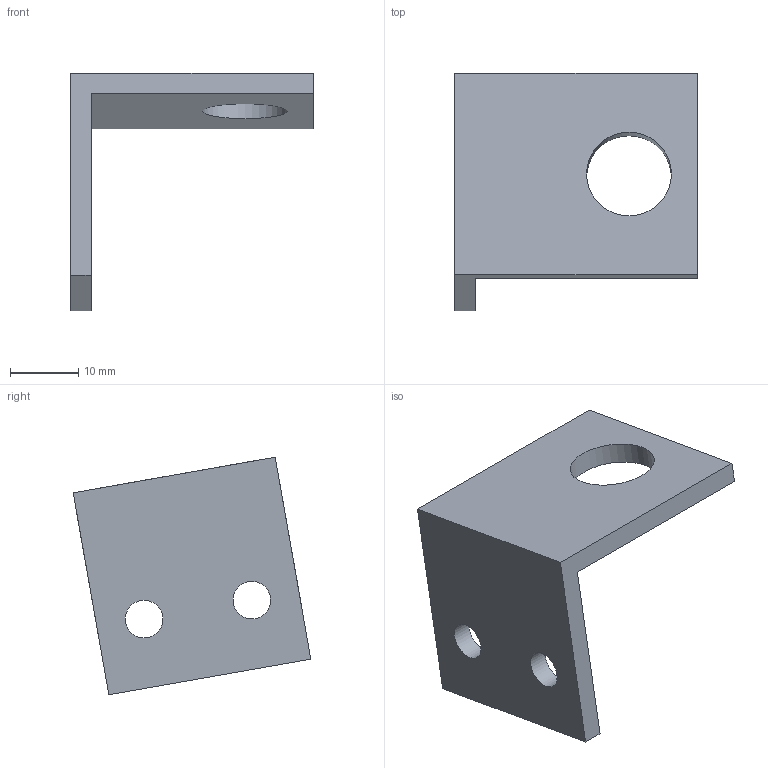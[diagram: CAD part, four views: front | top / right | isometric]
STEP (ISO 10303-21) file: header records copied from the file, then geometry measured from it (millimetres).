
FILE_DESCRIPTION(('golf model'),'2;1');
FILE_NAME('golf','',(''),(''),'golf_step_io','golf','');
FILE_SCHEMA(('AUTOMOTIVE_DESIGN { 1 0 10303 214 1 1 1 1 }'));
Length unit declared in the file: millimetre
Products named in the file (2): ASSEMBLY; sensors.y_home_bracket
Assembly tree (1 placements, depth 2):
  ASSEMBLY
    sensors.y_home_bracket
Bounding box: 35.5 x 34.75 x 34.75 mm (x, y, z)
Volume: 5120.2 mm3; surface area: 4189 mm2
Topology: 1 solids, 1 shells, 11 faces, 27 edges, 18 vertices
Faces by surface type: plane 8, cylinder 3
Full cylindrical faces by diameter (mm): 5.5 x2, 12.4 x1
Entity records: 358 total; most frequent: DIRECTION 56, CARTESIAN_POINT 55, ORIENTED_EDGE 48, EDGE_CURVE 24, EDGE_LOOP 20, AXIS2_PLACEMENT_3D 19, VERTEX_POINT 18, VECTOR 18
